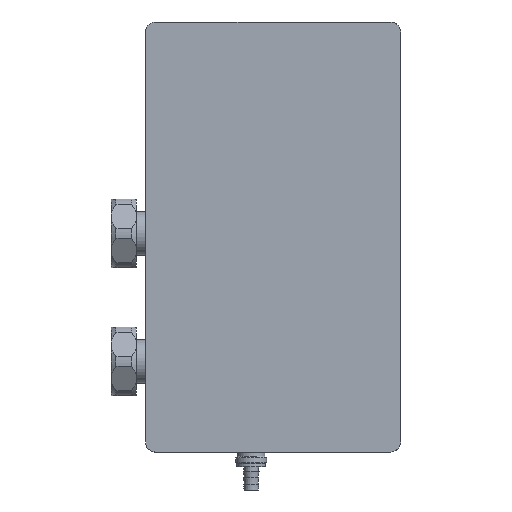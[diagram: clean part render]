
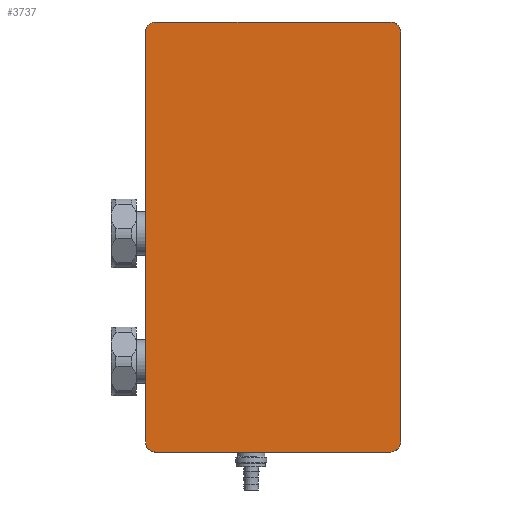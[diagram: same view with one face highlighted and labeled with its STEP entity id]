
A CAD part, front view. The second image highlights one B-rep face of the part: STEP entity #3737.
In plain terms, the highlighted planar face has unit normal (0, -1, 0).
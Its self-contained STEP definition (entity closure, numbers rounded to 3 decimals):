
#308=CIRCLE('',#4059,10.);
#309=CIRCLE('',#4062,10.);
#323=CIRCLE('',#4092,10.);
#324=CIRCLE('',#4093,10.);
#572=FACE_OUTER_BOUND('',#796,.T.);
#796=EDGE_LOOP('',(#2822,#2823,#2824,#2825,#2826,#2827,#2828,#2829));
#1003=LINE('',#6215,#1161);
#1006=LINE('',#6223,#1164);
#1021=LINE('',#6294,#1179);
#1023=LINE('',#6300,#1181);
#1161=VECTOR('',#4804,10.);
#1164=VECTOR('',#4813,10.);
#1179=VECTOR('',#4882,10.);
#1181=VECTOR('',#4888,10.);
#1524=VERTEX_POINT('',#6207);
#1525=VERTEX_POINT('',#6209);
#1526=VERTEX_POINT('',#6213);
#1527=VERTEX_POINT('',#6217);
#1528=VERTEX_POINT('',#6221);
#1545=VERTEX_POINT('',#6293);
#1546=VERTEX_POINT('',#6297);
#1547=VERTEX_POINT('',#6299);
#1967=EDGE_CURVE('',#1525,#1524,#308,.T.);
#1970=EDGE_CURVE('',#1524,#1526,#1003,.T.);
#1972=EDGE_CURVE('',#1526,#1527,#309,.T.);
#1974=EDGE_CURVE('',#1527,#1528,#1006,.T.);
#2003=EDGE_CURVE('',#1545,#1525,#1021,.T.);
#2005=EDGE_CURVE('',#1528,#1546,#323,.T.);
#2006=EDGE_CURVE('',#1546,#1547,#1023,.T.);
#2007=EDGE_CURVE('',#1547,#1545,#324,.T.);
#2822=ORIENTED_EDGE('',*,*,#1974,.T.);
#2823=ORIENTED_EDGE('',*,*,#2005,.T.);
#2824=ORIENTED_EDGE('',*,*,#2006,.T.);
#2825=ORIENTED_EDGE('',*,*,#2007,.T.);
#2826=ORIENTED_EDGE('',*,*,#2003,.T.);
#2827=ORIENTED_EDGE('',*,*,#1967,.T.);
#2828=ORIENTED_EDGE('',*,*,#1970,.T.);
#2829=ORIENTED_EDGE('',*,*,#1972,.T.);
#3426=PLANE('',#4091);
#3737=ADVANCED_FACE('',(#572),#3426,.F.);
#4059=AXIS2_PLACEMENT_3D('',#6210,#4798,#4799);
#4062=AXIS2_PLACEMENT_3D('',#6219,#4808,#4809);
#4091=AXIS2_PLACEMENT_3D('',#6296,#4884,#4885);
#4092=AXIS2_PLACEMENT_3D('',#6298,#4886,#4887);
#4093=AXIS2_PLACEMENT_3D('',#6301,#4889,#4890);
#4798=DIRECTION('center_axis',(0.,-1.,0.));
#4799=DIRECTION('ref_axis',(1.,0.,0.));
#4804=DIRECTION('',(0.,0.,1.));
#4808=DIRECTION('center_axis',(0.,-1.,0.));
#4809=DIRECTION('ref_axis',(0.,0.,1.));
#4813=DIRECTION('',(-1.,0.,0.));
#4882=DIRECTION('',(1.,0.,0.));
#4884=DIRECTION('center_axis',(0.,1.,0.));
#4885=DIRECTION('ref_axis',(0.,0.,1.));
#4886=DIRECTION('center_axis',(0.,-1.,0.));
#4887=DIRECTION('ref_axis',(1.,0.,0.));
#4888=DIRECTION('',(0.,0.,-1.));
#4889=DIRECTION('center_axis',(0.,-1.,0.));
#4890=DIRECTION('ref_axis',(0.,0.,1.));
#6207=CARTESIAN_POINT('',(124.5,-74.,10.));
#6209=CARTESIAN_POINT('',(114.5,-74.,0.));
#6210=CARTESIAN_POINT('Origin',(114.5,-74.,10.));
#6213=CARTESIAN_POINT('',(124.5,-74.,410.));
#6215=CARTESIAN_POINT('',(124.5,-74.,410.));
#6217=CARTESIAN_POINT('',(114.5,-74.,420.));
#6219=CARTESIAN_POINT('Origin',(114.5,-74.,410.));
#6221=CARTESIAN_POINT('',(-114.5,-74.,420.));
#6223=CARTESIAN_POINT('',(-114.5,-74.,420.));
#6293=CARTESIAN_POINT('',(-114.5,-74.,0.));
#6294=CARTESIAN_POINT('',(-114.5,-74.,0.));
#6296=CARTESIAN_POINT('Origin',(0.,-74.,210.));
#6297=CARTESIAN_POINT('',(-124.5,-74.,410.));
#6298=CARTESIAN_POINT('Origin',(-114.5,-74.,410.));
#6299=CARTESIAN_POINT('',(-124.5,-74.,10.));
#6300=CARTESIAN_POINT('',(-124.5,-74.,410.));
#6301=CARTESIAN_POINT('Origin',(-114.5,-74.,10.));
